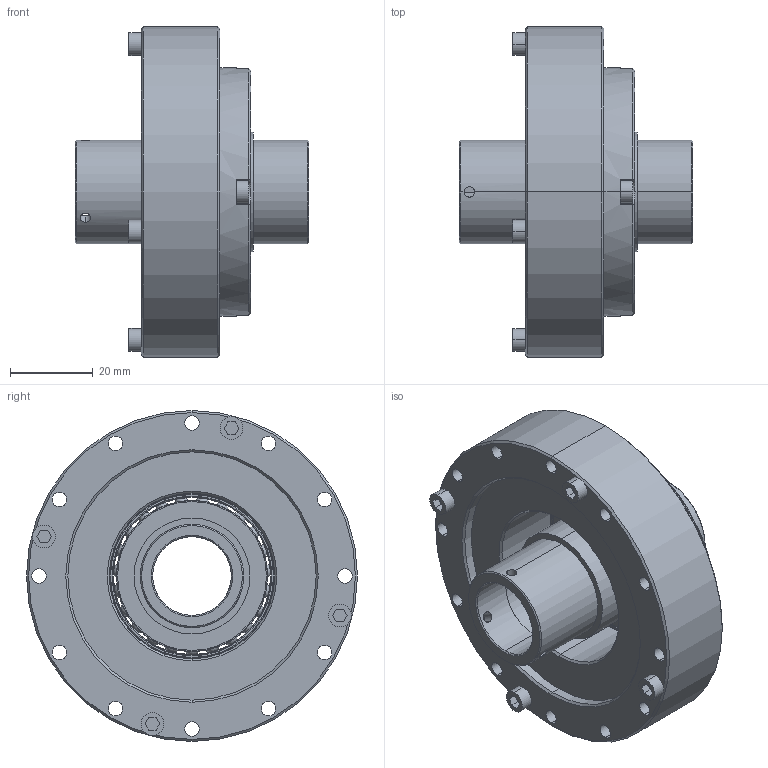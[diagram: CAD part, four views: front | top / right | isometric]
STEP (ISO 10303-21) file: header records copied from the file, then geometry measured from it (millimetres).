
FILE_DESCRIPTION((''),'2;1');
FILE_NAME('LHT-17-U-I_ASM','2017-09-29T',('Administrator'),(''),'PRO/ENGINEER BY PARAMETRIC TECHNOLOGY CORPORATION, 2014200','PRO/ENGINEER BY PARAMETRIC TECHNOLOGY CORPORATION, 2014200','');
FILE_SCHEMA(('AUTOMOTIVE_DESIGN { 1 0 10303 214 1 1 1 1 }'));
Length unit declared in the file: millimetre
Products named in the file (20): MANIFOLD_SOLID_BREP_187; MANIFOLD_SOLID_BREP_188; MANIFOLD_SOLID_BREP_189; MANIFOLD_SOLID_BREP_190; MANIFOLD_SOLID_BREP_191; MANIFOLD_SOLID_BREP_192; MANIFOLD_SOLID_BREP_193; MANIFOLD_SOLID_BREP_194; MANIFOLD_SOLID_BREP_195; MANIFOLD_SOLID_BREP_196; ADMI7ED1CHG3_ASM; MANIFOLD_SOLID_BREP_1096_1; MANIFOLD_SOLID_BREP_1122_1; MANIFOLD_SOLID_BREP_1124_1; MANIFOLD_SOLID_BREP_1145_1; MANIFOLD_SOLID_BREP_1155_1; ADMI85A9D2P1_ASM_1_ASM; LHT-17-U-3_ASM_1_ASM; 17-5_ASM; LHT-17-U-I_ASM
Assembly tree (41 placements, depth 5):
  LHT-17-U-I_ASM
    ADMI7ED1CHG3_ASM
      MANIFOLD_SOLID_BREP_187
      MANIFOLD_SOLID_BREP_188
      MANIFOLD_SOLID_BREP_189
      MANIFOLD_SOLID_BREP_190
      MANIFOLD_SOLID_BREP_191
      MANIFOLD_SOLID_BREP_192
      MANIFOLD_SOLID_BREP_193
      MANIFOLD_SOLID_BREP_194
      MANIFOLD_SOLID_BREP_195
      MANIFOLD_SOLID_BREP_196
    17-5_ASM
      LHT-17-U-3_ASM_1_ASM
        ADMI85A9D2P1_ASM_1_ASM
          MANIFOLD_SOLID_BREP_1096_1
          MANIFOLD_SOLID_BREP_1122_1
          MANIFOLD_SOLID_BREP_1124_1
          MANIFOLD_SOLID_BREP_1145_1  x23
          MANIFOLD_SOLID_BREP_1155_1
Bounding box: 56.5 x 80 x 80 mm (x, y, z)
Volume: 92371.8 mm3; surface area: 38676.2 mm2
Topology: 37 solids, 37 shells, 645 faces, 1724 edges, 1062 vertices
Faces by surface type: cylinder 244, plane 167, cone 110, sphere 92, torus 32
Entity records: 23225 total; most frequent: DIRECTION 3494, CARTESIAN_POINT 3257, ORIENTED_EDGE 2816, AXIS2_PLACEMENT_3D 1453, PRESENTATION_STYLE_ASSIGNMENT 1423, STYLED_ITEM 1423, CURVE_STYLE 1408, EDGE_CURVE 1408
